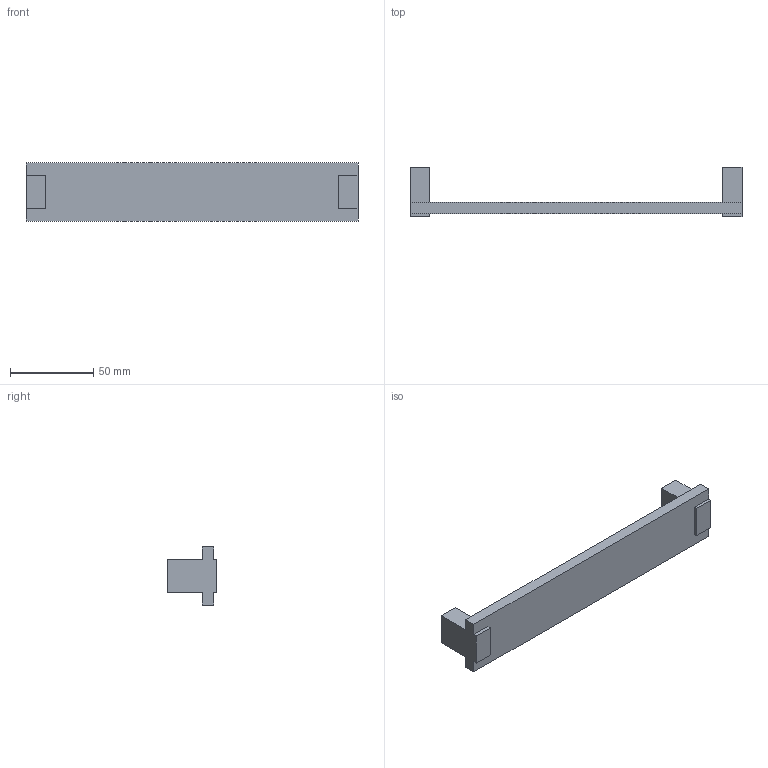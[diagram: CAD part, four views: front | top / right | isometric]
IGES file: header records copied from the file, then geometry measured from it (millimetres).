
Start section: Data from Parasolid IGES Translator 15.0.47, Copyright(c) 2006 Siemens P LM Software. All Rights Reserved.
Global section: file name: 9113542.igs; native system:  By UGS Corp.; preprocessor: XPlus GENERIC/IGES 3.0; author: Noname; organization: Noname; date: 20140122.164331; units: millimetre
Bounding box: 200 x 30 x 35 mm (x, y, z)
Surface area: 20338 mm2 (no closed solid volume)
Topology: 0 solids, 0 shells, 26 faces, 132 edges, 130 vertices
Faces by surface type: extrusion 24, revolution 2
